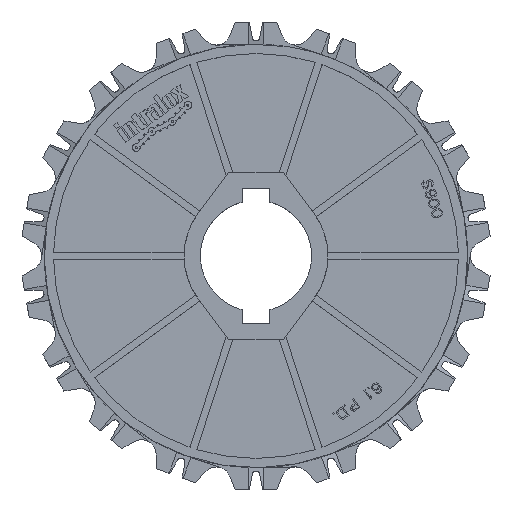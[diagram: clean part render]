
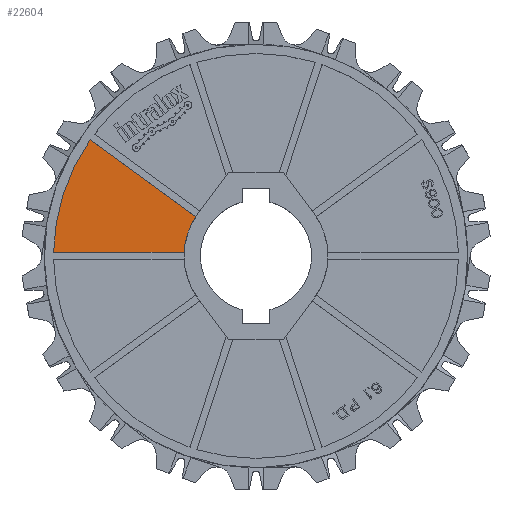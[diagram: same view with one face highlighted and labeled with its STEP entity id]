
A CAD part, top view. The second image highlights one B-rep face of the part: STEP entity #22604.
In plain terms, the highlighted planar face has unit normal (0, 0, 1).
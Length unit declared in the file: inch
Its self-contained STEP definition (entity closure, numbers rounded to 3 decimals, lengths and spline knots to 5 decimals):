
#4693=DIRECTION('',(-0.809,0.588,0.));
#4694=VECTOR('',#4693,1.76078);
#4695=CARTESIAN_POINT('',(-0.81227,0.5302,0.09));
#4696=LINE('',#4695,#4694);
#4706=CARTESIAN_POINT('',(0.,0.,0.09));
#4707=DIRECTION('',(0.,0.,1.));
#4708=DIRECTION('',(-0.819,0.573,0.));
#4709=AXIS2_PLACEMENT_3D('',#4706,#4707,#4708);
#4829=CARTESIAN_POINT('',(0.,0.,0.09));
#4830=DIRECTION('',(0.,0.,1.));
#4831=DIRECTION('',(-0.837,0.547,0.));
#4832=AXIS2_PLACEMENT_3D('',#4829,#4830,#4831);
#6872=DIRECTION('',(1.,0.,0.));
#6873=VECTOR('',#6872,1.76078);
#6874=CARTESIAN_POINT('',(-2.72957,0.0485,0.09));
#6875=LINE('',#6874,#6873);
#15770=CARTESIAN_POINT('',(-2.23678,1.56516,0.09));
#15771=CARTESIAN_POINT('',(-2.72957,0.0485,0.09));
#15772=VERTEX_POINT('',#15770);
#15773=VERTEX_POINT('',#15771);
#15848=CARTESIAN_POINT('',(-0.81227,0.5302,0.09));
#15849=VERTEX_POINT('',#15848);
#15852=CARTESIAN_POINT('',(-0.96879,0.0485,0.09));
#15853=VERTEX_POINT('',#15852);
#22592=CARTESIAN_POINT('',(0.,0.,0.09));
#22593=DIRECTION('',(0.,0.,1.));
#22594=DIRECTION('',(1.,0.,0.));
#22595=AXIS2_PLACEMENT_3D('',#22592,#22593,#22594);
#22596=PLANE('',#22595);
#22597=ORIENTED_EDGE('',*,*,#21853,.T.);
#22599=ORIENTED_EDGE('',*,*,#22598,.F.);
#22600=ORIENTED_EDGE('',*,*,#21907,.F.);
#22601=ORIENTED_EDGE('',*,*,#21880,.F.);
#22602=EDGE_LOOP('',(#22597,#22599,#22600,#22601));
#22603=FACE_OUTER_BOUND('',#22602,.F.);
#22604=ADVANCED_FACE('',(#22603),#22596,.T.);
#4710=CIRCLE('',#4709,2.73);
#4833=CIRCLE('',#4832,0.97);
#21853=EDGE_CURVE('',#15849,#15853,#4833,.T.);
#21880=EDGE_CURVE('',#15849,#15772,#4696,.T.);
#21907=EDGE_CURVE('',#15772,#15773,#4710,.T.);
#22598=EDGE_CURVE('',#15773,#15853,#6875,.T.);
